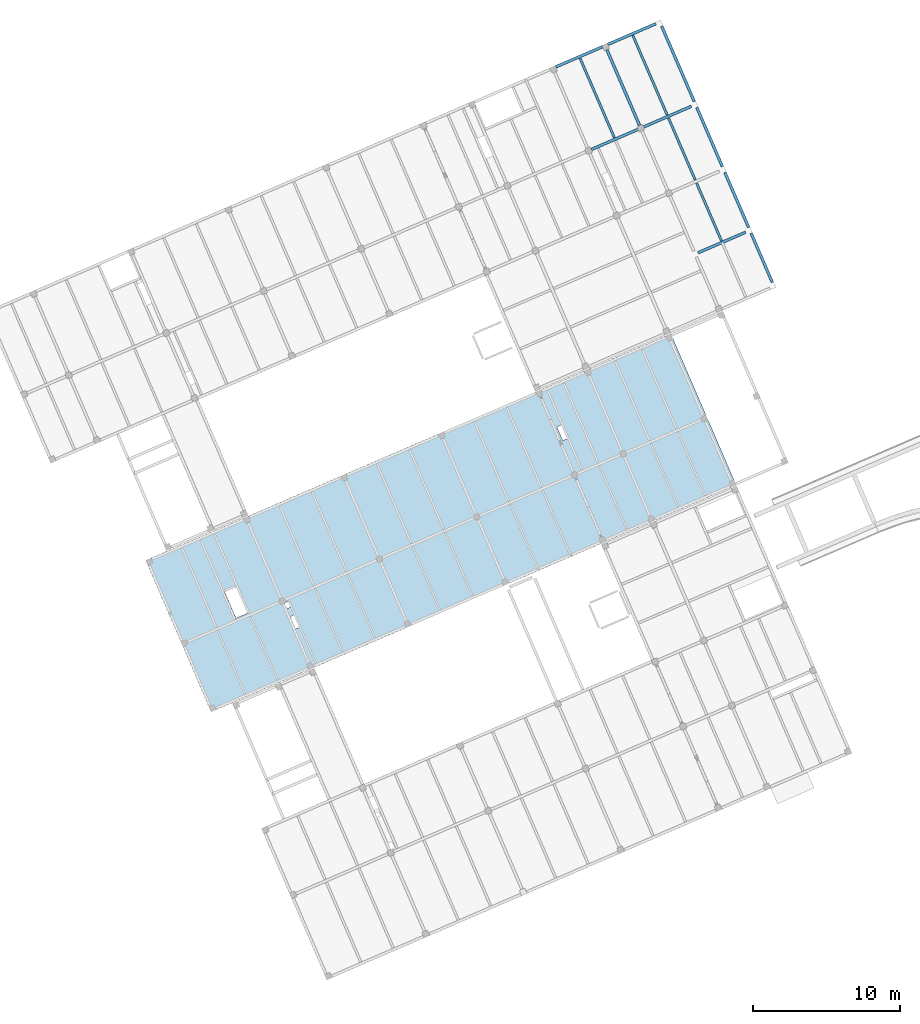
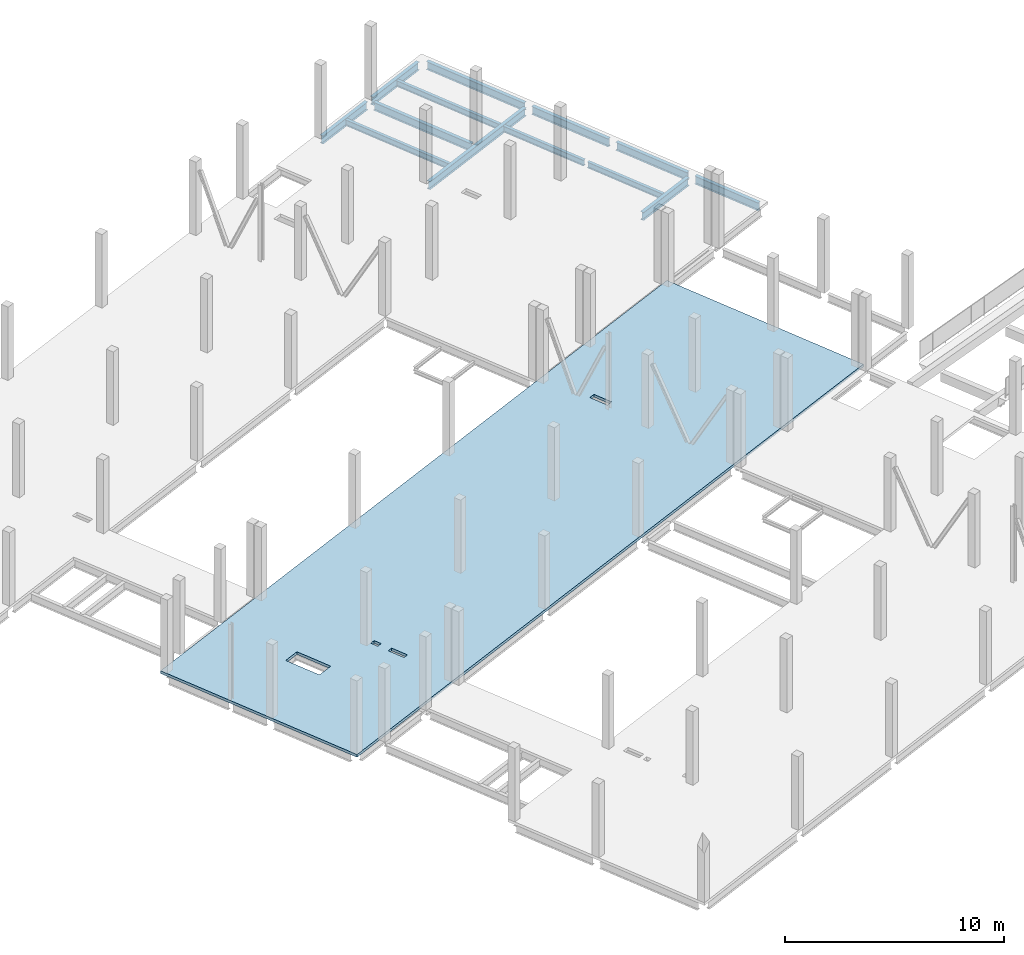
# One storey, part 21 of 24: 13 beams, 1 slab, 4 openings.
"""IFC4 building model written with IfcOpenShell, lengths in metres."""

from ifc_helpers import new_model, entity, si_unit, converted_unit, derived_unit, direction, frame, origin, place, context, subcontext, project, spatial, line, arc, indexed_curve, outline, extrude, source, transform, mapped, material, constituent, constituent_set, type_object, type_shapes, element, save


model = new_model("IFC4")

# Units and contexts
model_context = context("Model", 3, precision=1e-05, world=origin(), true_north=direction((6.12323399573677e-17, 1.0)))
body_context = subcontext(model_context, "Body", "Model", "MODEL_VIEW")
ifc_project = project(units=[si_unit("LENGTHUNIT", "METRE"), si_unit("AREAUNIT", "SQUARE_METRE"), si_unit("VOLUMEUNIT", "CUBIC_METRE"), converted_unit("PLANEANGLEUNIT", "DEGREE", entity("IfcPlaneAngleMeasure", 0.0174532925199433), si_unit("PLANEANGLEUNIT", "RADIAN"), dimensions=[0, 0, 0, 0, 0, 0, 0]), si_unit("MASSUNIT", "GRAM", prefix="KILO"), derived_unit("MOMENTOFINERTIAUNIT", [(si_unit("LENGTHUNIT", "METRE"), 4)]), derived_unit("LINEARFORCEUNIT", [(si_unit("MASSUNIT", "GRAM", prefix="KILO"), 1), (si_unit("TIMEUNIT", "SECOND"), -2)]), derived_unit("WARPINGCONSTANTUNIT", [(si_unit("LENGTHUNIT", "METRE"), 6)]), derived_unit("THERMALTRANSMITTANCEUNIT", [(si_unit("MASSUNIT", "GRAM", prefix="KILO"), 1), (si_unit("THERMODYNAMICTEMPERATUREUNIT", "KELVIN"), -1), (si_unit("TIMEUNIT", "SECOND"), -3)]), derived_unit("USERDEFINED", [(si_unit("MASSUNIT", "GRAM", prefix="KILO"), 1), (si_unit("TIMEUNIT", "SECOND"), -2), (si_unit("THERMODYNAMICTEMPERATUREUNIT", "KELVIN"), -1)]), derived_unit("THERMALRESISTANCEUNIT", [(si_unit("MASSUNIT", "GRAM", prefix="KILO"), -1), (si_unit("TIMEUNIT", "SECOND"), 3), (si_unit("THERMODYNAMICTEMPERATUREUNIT", "KELVIN"), 1)])], contexts=[model_context])

# Site, building, storey
site_placement = place(None, origin())
site = spatial("IfcSite", under=ifc_project, at=site_placement, Name="Default", CompositionType="ELEMENT")
building_placement = place(site_placement, frame((12.6613425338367, -82.5732315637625, 317.15), z_axis=(0.0, 0.0, 1.0), x_axis=(-0.396377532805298, 0.918087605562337, 0.0)))
building = spatial("IfcBuilding", under=site, at=building_placement, Name="CESFAM Coyhaique", CompositionType="ELEMENT")
storey_placement = place(building_placement, frame((0.0, 0.0, 4.20000000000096)))
storey = spatial("IfcBuildingStorey", under=building, at=storey_placement, Name="Nivel 2", CompositionType="ELEMENT", Elevation=4.20000000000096)

# Beams
ifc_material_1 = material(Name="Steel, 45-345", Category="Metal")
beam_type_1 = type_object("IfcBeamType", Name="M_W Shapes:W450X190mm", PredefinedType="BEAM", material=ifc_material_1)
shared_shape_1 = source(origin(), body_context, "Body", "SweptSolid", [
    extrude(outline(indexed_curve([(-0.225, -0.0950000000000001), (-0.215350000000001, -0.0950000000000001), (-0.21535, -0.0105700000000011), (-0.213109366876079, -0.00516063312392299), (-0.2077, -0.0029200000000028), (0.207699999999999, -0.0029200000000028), (0.213109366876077, -0.00516063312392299), (0.215349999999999, -0.0105700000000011), (0.215349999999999, -0.0950000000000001), (0.225, -0.0950000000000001), (0.225, 0.0950000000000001), (0.215349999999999, 0.0950000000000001), (0.215349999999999, 0.0105699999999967), (0.213109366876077, 0.00516063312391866), (0.207699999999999, 0.00291999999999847), (-0.2077, 0.00291999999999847), (-0.213109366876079, 0.00516063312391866), (-0.215350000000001, 0.0105700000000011), (-0.215350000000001, 0.0950000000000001), (-0.225, 0.0950000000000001)], segments=[line(1, 2, 3), arc(3, 4, 5), line(5, 6), arc(6, 7, 8), line(8, 9, 10, 11, 12, 13), arc(13, 14, 15), line(15, 16), arc(16, 17, 18), line(18, 19, 20, 1)], self_intersect=False)), frame((35.4315534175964, -29.097149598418, 3.82500000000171), z_axis=(1.0, 0.0, 0.0), x_axis=(0.0, 0.0, -1.0)), (0.0, 0.0, 1.0), 3.6246),
])
type_shapes(beam_type_1, [shared_shape_1])
beam_1_placement = place(storey_placement, frame((0.0, 0.0, -4.20000000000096)))
element("IfcBeam", 1, at=beam_1_placement, inside=storey, type_object=beam_type_1, Name="M_W Shapes:W450X190mm", ObjectType="M_W Shapes:W450X190mm", PredefinedType="BEAM", context=body_context, shape_type="MappedRepresentation", body=[
    mapped(shared_shape_1, transform((0.0, 0.0, 0.0), scale=1.0)),
])
beam_type_2 = type_object("IfcBeamType", Name="M_W Shapes:W450X190mm", PredefinedType="BEAM", material=ifc_material_1)
shared_shape_2 = source(origin(), body_context, "Body", "SweptSolid", [
    extrude(outline(indexed_curve([(-0.0949999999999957, -0.225000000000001), (0.0950000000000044, -0.225000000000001), (0.0950000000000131, -0.21535), (0.0105700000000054, -0.21535), (0.00516063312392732, -0.213109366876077), (0.00292000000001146, -0.2077), (0.0029200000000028, 0.207699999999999), (0.00516063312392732, 0.213109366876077), (0.0105700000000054, 0.21535), (0.0950000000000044, 0.21535), (0.0950000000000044, 0.224999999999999), (-0.0949999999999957, 0.224999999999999), (-0.0949999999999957, 0.21535), (-0.0105699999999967, 0.215349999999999), (-0.00516063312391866, 0.213109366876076), (-0.00291999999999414, 0.207699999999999), (-0.00291999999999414, -0.2077), (-0.00516063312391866, -0.213109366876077), (-0.0105699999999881, -0.21535), (-0.0949999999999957, -0.21535)], segments=[line(1, 2, 3, 4), arc(4, 5, 6), line(6, 7), arc(7, 8, 9), line(9, 10, 11, 12, 13, 14), arc(14, 15, 16), line(16, 17), arc(17, 18, 19), line(19, 20, 1)], self_intersect=False)), frame((48.5688534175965, -28.7844495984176, 3.82500000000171), z_axis=(0.0, 1.0, 0.0), x_axis=(-1.0, 0.0, 0.0)), (0.0, 0.0, 1.0), 7.3746),
])
type_shapes(beam_type_2, [shared_shape_2])
beam_2_placement = place(storey_placement, frame((0.0, 0.0, -4.20000000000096)))
element("IfcBeam", 2, at=beam_2_placement, inside=storey, type_object=beam_type_2, Name="M_W Shapes:W450X190mm", ObjectType="M_W Shapes:W450X190mm", PredefinedType="BEAM", context=body_context, shape_type="MappedRepresentation", body=[
    mapped(shared_shape_2, transform((0.0, 0.0, 0.0), scale=1.0)),
])
beam_type_3 = type_object("IfcBeamType", Name="M_W Shapes:W450X190mm", PredefinedType="BEAM", material=ifc_material_1)
shared_shape_3 = source(origin(), body_context, "Body", "SweptSolid", [
    extrude(outline(indexed_curve([(-0.0950000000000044, -0.225000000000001), (0.0949999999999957, -0.225000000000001), (0.0949999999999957, -0.21535), (0.0105699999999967, -0.21535), (0.00516063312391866, -0.213109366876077), (0.0029200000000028, -0.2077), (0.00291999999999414, 0.207699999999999), (0.00516063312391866, 0.213109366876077), (0.0105699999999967, 0.21535), (0.0949999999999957, 0.21535), (0.0949999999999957, 0.224999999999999), (-0.0950000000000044, 0.224999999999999), (-0.0950000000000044, 0.21535), (-0.0105700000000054, 0.215349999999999), (-0.00516063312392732, 0.213109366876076), (-0.0029200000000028, 0.207699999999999), (-0.0029200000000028, -0.2077), (-0.00516063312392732, -0.213109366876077), (-0.0105700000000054, -0.21535), (-0.0950000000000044, -0.21535)], segments=[line(1, 2, 3, 4), arc(4, 5, 6), line(6, 7), arc(7, 8, 9), line(9, 10, 11, 12, 13, 14), arc(14, 15, 16), line(16, 17), arc(17, 18, 19), line(19, 20, 1)], self_intersect=False)), frame((54.6688534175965, -24.8471495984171, 3.82500000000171), z_axis=(0.0, 1.0, 0.0), x_axis=(-1.0, 0.0, 0.0)), (0.0, 0.0, 1.0), 3.4373),
])
type_shapes(beam_type_3, [shared_shape_3])
beam_3_placement = place(storey_placement, frame((0.0, 0.0, -4.20000000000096)))
element("IfcBeam", 3, at=beam_3_placement, inside=storey, type_object=beam_type_3, Name="M_W Shapes:W450X190mm", ObjectType="M_W Shapes:W450X190mm", PredefinedType="BEAM", context=body_context, shape_type="MappedRepresentation", body=[
    mapped(shared_shape_3, transform((0.0, 0.0, 0.0), scale=1.0)),
])
beam_type_4 = type_object("IfcBeamType", Name="M_W Shapes:W450X190mm", PredefinedType="BEAM", material=ifc_material_1)
shared_shape_4 = source(origin(), body_context, "Body", "SweptSolid", [
    extrude(outline(indexed_curve([(-0.225, -0.0949999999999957), (-0.215350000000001, -0.0949999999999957), (-0.21535, -0.0105699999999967), (-0.213109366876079, -0.00516063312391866), (-0.2077, -0.00291999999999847), (0.207699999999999, -0.00291999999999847), (0.213109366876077, -0.00516063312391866), (0.215349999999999, -0.0105699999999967), (0.215349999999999, -0.0949999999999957), (0.225, -0.0949999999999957), (0.225, 0.0950000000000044), (0.215349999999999, 0.0950000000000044), (0.215349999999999, 0.0105700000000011), (0.213109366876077, 0.00516063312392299), (0.207699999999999, 0.0029200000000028), (-0.2077, 0.0029200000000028), (-0.213109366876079, 0.00516063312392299), (-0.215350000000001, 0.0105700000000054), (-0.215350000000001, 0.0950000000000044), (-0.225, 0.0950000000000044)], segments=[line(1, 2, 3), arc(3, 4, 5), line(5, 6), arc(6, 7, 8), line(8, 9, 10, 11, 12, 13), arc(13, 14, 15), line(15, 16), arc(16, 17, 18), line(18, 19, 20, 1)], self_intersect=False)), frame((43.9815534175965, -29.097149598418, 3.82500000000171), z_axis=(1.0, 0.0, 0.0), x_axis=(0.0, 0.0, -1.0)), (0.0, 0.0, 1.0), 4.3746),
])
type_shapes(beam_type_4, [shared_shape_4])
beam_4_placement = place(storey_placement, frame((0.0, 0.0, -4.20000000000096)))
element("IfcBeam", 4, at=beam_4_placement, inside=storey, type_object=beam_type_4, Name="M_W Shapes:W450X190mm", ObjectType="M_W Shapes:W450X190mm", PredefinedType="BEAM", context=body_context, shape_type="MappedRepresentation", body=[
    mapped(shared_shape_4, transform((0.0, 0.0, 0.0), scale=1.0)),
])
beam_type_5 = type_object("IfcBeamType", Name="M_W Shapes:W450X190mm", PredefinedType="BEAM", material=ifc_material_1)
shared_shape_5 = source(origin(), body_context, "Body", "SweptSolid", [
    extrude(outline(indexed_curve([(-0.225, -0.0950000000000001), (-0.215350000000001, -0.0950000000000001), (-0.21535, -0.0105700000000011), (-0.213109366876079, -0.00516063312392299), (-0.2077, -0.0029200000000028), (0.207699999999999, -0.0029200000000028), (0.213109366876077, -0.00516063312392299), (0.215349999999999, -0.0105700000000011), (0.215349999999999, -0.0950000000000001), (0.225, -0.0950000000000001), (0.225, 0.0950000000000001), (0.215349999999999, 0.0950000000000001), (0.215349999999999, 0.0105699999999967), (0.213109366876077, 0.00516063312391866), (0.207699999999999, 0.00291999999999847), (-0.2077, 0.00291999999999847), (-0.213109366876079, 0.00516063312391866), (-0.215350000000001, 0.0105699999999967), (-0.215350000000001, 0.0950000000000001), (-0.225, 0.0950000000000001)], segments=[line(1, 2, 3), arc(3, 4, 5), line(5, 6), arc(6, 7, 8), line(8, 9, 10, 11, 12, 13), arc(13, 14, 15), line(15, 16), arc(16, 17, 18), line(18, 19, 20, 1)], self_intersect=False)), frame((48.7815534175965, -29.0971495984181, 3.82500000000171), z_axis=(1.0, 0.0, 0.0), x_axis=(0.0, 0.0, -1.0)), (0.0, 0.0, 1.0), 5.5746),
])
type_shapes(beam_type_5, [shared_shape_5])
beam_5_placement = place(storey_placement, frame((0.0, 0.0, -4.20000000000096)))
element("IfcBeam", 5, at=beam_5_placement, inside=storey, type_object=beam_type_5, Name="M_W Shapes:W450X190mm", ObjectType="M_W Shapes:W450X190mm", PredefinedType="BEAM", context=body_context, shape_type="MappedRepresentation", body=[
    mapped(shared_shape_5, transform((0.0, 0.0, 0.0), scale=1.0)),
])
beam_type_6 = type_object("IfcBeamType", Name="M_W Shapes:W450X190mm", PredefinedType="BEAM", material=ifc_material_1)
shared_shape_6 = source(origin(), body_context, "Body", "SweptSolid", [
    extrude(outline(indexed_curve([(-0.225, -0.0950000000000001), (-0.215350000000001, -0.0950000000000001), (-0.21535, -0.0105700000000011), (-0.213109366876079, -0.00516063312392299), (-0.2077, -0.0029200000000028), (0.207699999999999, -0.0029200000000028), (0.213109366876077, -0.00516063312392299), (0.215349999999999, -0.0105700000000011), (0.215349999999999, -0.0950000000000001), (0.225, -0.0950000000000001), (0.225, 0.0950000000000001), (0.215349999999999, 0.0950000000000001), (0.215349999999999, 0.0105699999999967), (0.213109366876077, 0.00516063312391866), (0.207699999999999, 0.00291999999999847), (-0.2077, 0.00291999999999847), (-0.213109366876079, 0.00516063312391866), (-0.215350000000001, 0.0105699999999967), (-0.215350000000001, 0.0950000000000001), (-0.225, 0.0950000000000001)], segments=[line(1, 2, 3), arc(3, 4, 5), line(5, 6), arc(6, 7, 8), line(8, 9, 10, 11, 12, 13), arc(13, 14, 15), line(15, 16), arc(16, 17, 18), line(18, 19, 20, 1)], self_intersect=False)), frame((48.7815534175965, -25.0471495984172, 3.82500000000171), z_axis=(1.0, 0.0, 0.0), x_axis=(0.0, 0.0, -1.0)), (0.0, 0.0, 1.0), 5.5746),
])
type_shapes(beam_type_6, [shared_shape_6])
beam_6_placement = place(storey_placement, frame((0.0, 0.0, -4.20000000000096)))
element("IfcBeam", 6, at=beam_6_placement, inside=storey, type_object=beam_type_6, Name="M_W Shapes:W450X190mm", ObjectType="M_W Shapes:W450X190mm", PredefinedType="BEAM", context=body_context, shape_type="MappedRepresentation", body=[
    mapped(shared_shape_6, transform((0.0, 0.0, 0.0), scale=1.0)),
])
beam_type_7 = type_object("IfcBeamType", Name="M_W Shapes:W450X190mm", PredefinedType="BEAM", material=ifc_material_1)
shared_shape_7 = source(origin(), body_context, "Body", "SweptSolid", [
    extrude(outline(indexed_curve([(-0.0950000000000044, -0.225000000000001), (0.0949999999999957, -0.225000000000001), (0.0949999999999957, -0.21535), (0.0105699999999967, -0.21535), (0.00516063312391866, -0.213109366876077), (0.0029200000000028, -0.2077), (0.00291999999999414, 0.207699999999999), (0.00516063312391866, 0.213109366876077), (0.0105699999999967, 0.21535), (0.0949999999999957, 0.21535), (0.0949999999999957, 0.224999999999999), (-0.0950000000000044, 0.224999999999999), (-0.0950000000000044, 0.21535), (-0.0105700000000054, 0.215349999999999), (-0.00516063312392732, 0.213109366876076), (-0.0029200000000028, 0.207699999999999), (-0.0029200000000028, -0.2077), (-0.00516063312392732, -0.213109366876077), (-0.0105700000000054, -0.21535), (-0.0950000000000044, -0.21535)], segments=[line(1, 2, 3, 4), arc(4, 5, 6), line(6, 7), arc(7, 8, 9), line(9, 10, 11, 12, 13, 14), arc(14, 15, 16), line(16, 17), arc(17, 18, 19), line(19, 20, 1)], self_intersect=False)), frame((54.6688534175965, -28.7970645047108, 3.82500000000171), z_axis=(0.0, 1.0, 0.0), x_axis=(-1.0, 0.0, 0.0)), (0.0, 0.0, 1.0), 3.5372),
])
type_shapes(beam_type_7, [shared_shape_7])
beam_7_placement = place(storey_placement, frame((0.0, 0.0, -4.20000000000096)))
element("IfcBeam", 7, at=beam_7_placement, inside=storey, type_object=beam_type_7, Name="M_W Shapes:W450X190mm", ObjectType="M_W Shapes:W450X190mm", PredefinedType="BEAM", context=body_context, shape_type="MappedRepresentation", body=[
    mapped(shared_shape_7, transform((0.0, 0.0, 0.0), scale=1.0)),
])
beam_type_8 = type_object("IfcBeamType", Name="M_W Shapes:W450X190mm", PredefinedType="BEAM", material=ifc_material_1)
shared_shape_8 = source(origin(), body_context, "Body", "SweptSolid", [
    extrude(outline(indexed_curve([(-0.225, -0.0950000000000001), (-0.215350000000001, -0.0950000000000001), (-0.21535, -0.0105700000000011), (-0.213109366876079, -0.00516063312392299), (-0.2077, -0.0029200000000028), (0.207699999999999, -0.0029200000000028), (0.213109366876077, -0.00516063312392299), (0.215349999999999, -0.0105700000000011), (0.215349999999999, -0.0950000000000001), (0.225, -0.0950000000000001), (0.225, 0.0950000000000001), (0.215349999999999, 0.0950000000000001), (0.215349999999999, 0.0105699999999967), (0.213109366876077, 0.00516063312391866), (0.207699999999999, 0.00291999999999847), (-0.2077, 0.00291999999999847), (-0.213109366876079, 0.00516063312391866), (-0.215350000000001, 0.0105699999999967), (-0.215350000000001, 0.0950000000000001), (-0.225, 0.0950000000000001)], segments=[line(1, 2, 3), arc(3, 4, 5), line(5, 6), arc(6, 7, 8), line(8, 9, 10, 11, 12, 13), arc(13, 14, 15), line(15, 16), arc(16, 17, 18), line(18, 19, 20, 1)], self_intersect=False)), frame((39.4815534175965, -29.097149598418, 3.82500000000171), z_axis=(1.0, 0.0, 0.0), x_axis=(0.0, 0.0, -1.0)), (0.0, 0.0, 1.0), 4.0746),
])
type_shapes(beam_type_8, [shared_shape_8])
beam_8_placement = place(storey_placement, frame((0.0, 0.0, -4.20000000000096)))
element("IfcBeam", 8, at=beam_8_placement, inside=storey, type_object=beam_type_8, Name="M_W Shapes:W450X190mm", ObjectType="M_W Shapes:W450X190mm", PredefinedType="BEAM", context=body_context, shape_type="MappedRepresentation", body=[
    mapped(shared_shape_8, transform((0.0, 0.0, 0.0), scale=1.0)),
])
beam_type_9 = type_object("IfcBeamType", Name="M_W Shapes:W450X190mm", PredefinedType="BEAM", material=ifc_material_1)
shared_shape_9 = source(origin(), body_context, "Body", "SweptSolid", [
    extrude(outline(indexed_curve([(-0.0950000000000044, -0.225000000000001), (0.0949999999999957, -0.225000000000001), (0.0949999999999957, -0.21535), (0.0105699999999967, -0.21535), (0.00516063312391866, -0.213109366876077), (0.0029200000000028, -0.2077), (0.00291999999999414, 0.207699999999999), (0.00516063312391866, 0.213109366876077), (0.0105699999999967, 0.21535), (0.0949999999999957, 0.21535), (0.0949999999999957, 0.224999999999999), (-0.0950000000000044, 0.224999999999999), (-0.0950000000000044, 0.21535), (-0.0105700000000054, 0.215349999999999), (-0.00516063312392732, 0.213109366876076), (-0.0029200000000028, 0.207699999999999), (-0.0029200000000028, -0.2077), (-0.00516063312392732, -0.213109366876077), (-0.0105700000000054, -0.21535), (-0.0950000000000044, -0.21535)], segments=[line(1, 2, 3, 4), arc(4, 5, 6), line(6, 7), arc(7, 8, 9), line(9, 10, 11, 12, 13, 14), arc(14, 15, 16), line(16, 17), arc(17, 18, 19), line(19, 20, 1)], self_intersect=False)), frame((39.2688534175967, -28.7844495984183, 3.82500000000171), z_axis=(0.0, 1.0, 0.0), x_axis=(-1.0, 0.0, 0.0)), (0.0, 0.0, 1.0), 3.5246),
])
type_shapes(beam_type_9, [shared_shape_9])
beam_9_placement = place(storey_placement, frame((0.0, 0.0, -4.20000000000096)))
element("IfcBeam", 9, at=beam_9_placement, inside=storey, type_object=beam_type_9, Name="M_W Shapes:W450X190mm", ObjectType="M_W Shapes:W450X190mm", PredefinedType="BEAM", context=body_context, shape_type="MappedRepresentation", body=[
    mapped(shared_shape_9, transform((0.0, 0.0, 0.0), scale=1.0)),
])
beam_type_10 = type_object("IfcBeamType", Name="M_W Shapes:W330X160mm", PredefinedType="BEAM", material=ifc_material_1)
shared_shape_10 = source(origin(), body_context, "Body", "SweptSolid", [
    extrude(outline(indexed_curve([(-0.164999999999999, -0.0799999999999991), (-0.15535, -0.0799999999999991), (-0.155349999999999, -0.0105699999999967), (-0.153109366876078, -0.00516063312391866), (-0.1477, -0.00291999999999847), (0.1477, -0.00291999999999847), (0.153109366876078, -0.00516063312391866), (0.15535, -0.0105699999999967), (0.15535, -0.0799999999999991), (0.165, -0.0799999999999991), (0.165, 0.0800000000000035), (0.15535, 0.0800000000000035), (0.155349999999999, 0.0105700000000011), (0.153109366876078, 0.00516063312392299), (0.1477, 0.0029200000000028), (-0.1477, 0.0029200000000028), (-0.153109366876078, 0.00516063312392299), (-0.15535, 0.0105700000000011), (-0.15535, 0.0800000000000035), (-0.164999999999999, 0.0800000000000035)], segments=[line(1, 2, 3), arc(3, 4, 5), line(5, 6), arc(6, 7, 8), line(8, 9, 10, 11, 12, 13), arc(13, 14, 15), line(15, 16), arc(16, 17, 18), line(18, 19, 20, 1)], self_intersect=False)), frame((39.2816534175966, -27.0471495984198, 3.88500000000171), z_axis=(1.0, 0.0, 0.0), x_axis=(0.0, 0.0, -1.0)), (0.0, 0.0, 1.0), 4.3795),
])
type_shapes(beam_type_10, [shared_shape_10])
beam_10_placement = place(storey_placement, frame((0.0, 0.0, -4.20000000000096)))
element("IfcBeam", 10, at=beam_10_placement, inside=storey, type_object=beam_type_10, Name="M_W Shapes:W330X160mm", ObjectType="M_W Shapes:W330X160mm", PredefinedType="BEAM", context=body_context, shape_type="MappedRepresentation", body=[
    mapped(shared_shape_10, transform((0.0, 0.0, 0.0), scale=1.0)),
])
beam_type_11 = type_object("IfcBeamType", Name="M_W Shapes:W330X160mm", PredefinedType="BEAM", material=ifc_material_1)
shared_shape_11 = source(origin(), body_context, "Body", "SweptSolid", [
    extrude(outline(indexed_curve([(-0.164999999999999, -0.0799999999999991), (-0.15535, -0.0799999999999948), (-0.15535, -0.0105699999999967), (-0.153109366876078, -0.00516063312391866), (-0.1477, -0.00291999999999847), (0.1477, -0.00291999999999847), (0.153109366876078, -0.00516063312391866), (0.15535, -0.0105700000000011), (0.155349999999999, -0.0799999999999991), (0.165, -0.0799999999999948), (0.165000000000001, 0.0800000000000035), (0.15535, 0.0799999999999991), (0.155349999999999, 0.0105700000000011), (0.153109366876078, 0.00516063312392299), (0.1477, 0.0029200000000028), (-0.1477, 0.0029200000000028), (-0.153109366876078, 0.00516063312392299), (-0.15535, 0.0105700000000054), (-0.15535, 0.0800000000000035), (-0.164999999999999, 0.0799999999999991)], segments=[line(1, 2, 3), arc(3, 4, 5), line(5, 6), arc(6, 7, 8), line(8, 9, 10, 11, 12, 13), arc(13, 14, 15), line(15, 16), arc(16, 17, 18), line(18, 19, 20, 1)], self_intersect=False)), frame((48.4611534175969, -27.0471495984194, 3.88500000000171), z_axis=(-1.0, 0.0, 0.0), x_axis=(0.0, 0.0, -1.0)), (0.0, 0.0, 1.0), 4.5846),
])
type_shapes(beam_type_11, [shared_shape_11])
beam_11_placement = place(storey_placement, frame((0.0, 0.0, -4.20000000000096)))
element("IfcBeam", 11, at=beam_11_placement, inside=storey, type_object=beam_type_11, Name="M_W Shapes:W330X160mm", ObjectType="M_W Shapes:W330X160mm", PredefinedType="BEAM", context=body_context, shape_type="MappedRepresentation", body=[
    mapped(shared_shape_11, transform((0.0, 0.0, 0.0), scale=1.0)),
])
beam_type_12 = type_object("IfcBeamType", Name="M_W Shapes:W330X160mm", PredefinedType="BEAM", material=ifc_material_1)
shared_shape_12 = source(origin(), body_context, "Body", "SweptSolid", [
    extrude(outline(indexed_curve([(-0.164999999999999, -0.0799999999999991), (-0.15535, -0.0799999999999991), (-0.155349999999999, -0.0105699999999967), (-0.153109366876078, -0.00516063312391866), (-0.1477, -0.00291999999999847), (0.1477, -0.00291999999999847), (0.153109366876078, -0.00516063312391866), (0.15535, -0.0105699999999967), (0.15535, -0.0799999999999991), (0.165, -0.0799999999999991), (0.165, 0.0800000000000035), (0.15535, 0.0800000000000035), (0.155349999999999, 0.0105700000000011), (0.153109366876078, 0.00516063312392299), (0.1477, 0.0029200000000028), (-0.1477, 0.0029200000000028), (-0.153109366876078, 0.00516063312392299), (-0.15535, 0.0105700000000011), (-0.15535, 0.0800000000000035), (-0.164999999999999, 0.0800000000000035)], segments=[line(1, 2, 3), arc(3, 4, 5), line(5, 6), arc(6, 7, 8), line(8, 9, 10, 11, 12, 13), arc(13, 14, 15), line(15, 16), arc(16, 17, 18), line(18, 19, 20, 1)], self_intersect=False)), frame((48.6765534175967, -27.0471495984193, 3.88500000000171), z_axis=(1.0, 0.0, 0.0), x_axis=(0.0, 0.0, -1.0)), (0.0, 0.0, 1.0), 5.88460000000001),
])
type_shapes(beam_type_12, [shared_shape_12])
beam_12_placement = place(storey_placement, frame((0.0, 0.0, -4.20000000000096)))
element("IfcBeam", 12, at=beam_12_placement, inside=storey, type_object=beam_type_12, Name="M_W Shapes:W330X160mm", ObjectType="M_W Shapes:W330X160mm", PredefinedType="BEAM", context=body_context, shape_type="MappedRepresentation", body=[
    mapped(shared_shape_12, transform((0.0, 0.0, 0.0), scale=1.0)),
])
beam_type_13 = type_object("IfcBeamType", Name="M_W Shapes:W330X160mm", PredefinedType="BEAM", material=ifc_material_1)
shared_shape_13 = source(origin(), body_context, "Body", "SweptSolid", [
    extrude(outline(indexed_curve([(-0.164999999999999, -0.0799999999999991), (-0.15535, -0.0799999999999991), (-0.155349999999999, -0.0105699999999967), (-0.153109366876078, -0.00516063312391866), (-0.1477, -0.00291999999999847), (0.1477, -0.00291999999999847), (0.153109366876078, -0.00516063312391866), (0.15535, -0.0105699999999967), (0.15535, -0.0799999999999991), (0.165, -0.0799999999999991), (0.165, 0.0800000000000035), (0.15535, 0.0800000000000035), (0.155349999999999, 0.0105700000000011), (0.153109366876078, 0.00516063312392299), (0.1477, 0.0029200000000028), (-0.1477, 0.0029200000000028), (-0.153109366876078, 0.00516063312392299), (-0.15535, 0.0105700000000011), (-0.15535, 0.0800000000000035), (-0.164999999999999, 0.0800000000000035)], segments=[line(1, 2, 3), arc(3, 4, 5), line(5, 6), arc(6, 7, 8), line(8, 9, 10, 11, 12, 13), arc(13, 14, 15), line(15, 16), arc(16, 17, 18), line(18, 19, 20, 1)], self_intersect=False)), frame((48.6765534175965, -23.1471495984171, 3.88500000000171), z_axis=(1.0, 0.0, 0.0), x_axis=(0.0, 0.0, -1.0)), (0.0, 0.0, 1.0), 5.88460000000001),
])
type_shapes(beam_type_13, [shared_shape_13])
beam_13_placement = place(storey_placement, frame((0.0, 0.0, -4.20000000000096)))
element("IfcBeam", 13, at=beam_13_placement, inside=storey, type_object=beam_type_13, Name="M_W Shapes:W330X160mm", ObjectType="M_W Shapes:W330X160mm", PredefinedType="BEAM", context=body_context, shape_type="MappedRepresentation", body=[
    mapped(shared_shape_13, transform((0.0, 0.0, 0.0), scale=1.0)),
])

# Slab, openings
ifc_material_2 = material(Name="HA")
ifc_constituent = constituent(ifc_material_2, Name="HA", fraction=1.0)
ifc_constituent_set = constituent_set(constituents=[ifc_constituent], Name="Floor:Losa colaborante 150mm")
slab_type = type_object("IfcSlabType", Name="Floor:Losa colaborante 150mm", PredefinedType="FLOOR", material=ifc_constituent_set)
slab_placement = place(storey_placement, origin())
slab = element("IfcSlab", 14, at=slab_placement, inside=storey, type_object=slab_type, material=ifc_constituent_set, Name="Floor:Losa colaborante 150mm", ObjectType="Floor:Losa colaborante 150mm", PredefinedType="FLOOR", context=body_context, shape_type="SweptSolid", body=[
    extrude(outline(indexed_curve([(-5.66666666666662, -20.3333333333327), (5.53333333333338, -20.3333333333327), (5.53333333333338, 18.4666666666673), (-5.66666666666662, 18.4666666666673), (-5.66666666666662, -20.3333333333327)], self_intersect=False), holes=[indexed_curve([(2.6333333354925, -12.8333333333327), (1.7333333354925, -12.8333333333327), (1.7333333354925, -12.5733333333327), (2.6333333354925, -12.5733333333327), (2.6333333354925, -12.8333333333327)], self_intersect=False), indexed_curve([(-2.9200450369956, 9.18218270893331), (-1.91666666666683, 9.18218270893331), (-1.91666666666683, 8.86666666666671), (-2.9200450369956, 8.86666666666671), (-2.9200450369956, 9.18218270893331)], self_intersect=False), indexed_curve([(0.733333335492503, -12.5733333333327), (1.1333333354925, -12.5733333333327), (1.1333333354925, -12.8333333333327), (0.733333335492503, -12.8333333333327), (0.733333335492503, -12.5733333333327)], self_intersect=False), indexed_curve([(-1.56655600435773, -15.3935339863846), (0.358952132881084, -15.3935339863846), (0.358952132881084, -16.2533926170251), (-1.56655600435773, -16.2533926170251), (-1.56655600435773, -15.3935339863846)], self_intersect=False)]), frame((29.3021867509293, -2.93048293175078, -0.149999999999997), z_axis=(0.0, 0.0, 1.0), x_axis=(-1.0, 0.0, 0.0)), (0.0, 0.0, 1.0), 0.15),
])
opening_1_placement = place(slab_placement, origin())
element("IfcOpeningElement", 15, at=opening_1_placement, cuts=slab, Name="Floor:Losa colaborante 150mm", PredefinedType="OPENING", context=body_context, shape_type="SweptSolid", body=[
    extrude(outline(indexed_curve([(26.6688534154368, 9.9028504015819), (26.6688534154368, 9.64285040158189), (27.5688534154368, 9.64285040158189), (27.5688534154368, 9.9028504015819), (26.6688534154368, 9.9028504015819)], self_intersect=False)), frame((0.0, 0.0, -4.20000000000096)), (0.0, 0.0, 1.0), 38.8),
])
opening_2_placement = place(slab_placement, origin())
element("IfcOpeningElement", 16, at=opening_2_placement, cuts=slab, Name="Floor:Losa colaborante 150mm", PredefinedType="OPENING", context=body_context, shape_type="SweptSolid", body=[
    extrude(outline(indexed_curve([(32.2222317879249, -12.1126656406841), (32.2222317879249, -11.7971495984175), (31.2188534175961, -11.7971495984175), (31.2188534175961, -12.1126656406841), (32.2222317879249, -12.1126656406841)], self_intersect=False)), frame((0.0, 0.0, -4.20000000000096)), (0.0, 0.0, 1.0), 38.8),
])
opening_3_placement = place(slab_placement, origin())
element("IfcOpeningElement", 17, at=opening_3_placement, cuts=slab, Name="Floor:Losa colaborante 150mm", PredefinedType="OPENING", context=body_context, shape_type="SweptSolid", body=[
    extrude(outline(indexed_curve([(28.5688534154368, 9.64285040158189), (28.5688534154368, 9.90285040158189), (28.1688534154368, 9.9028504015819), (28.1688534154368, 9.64285040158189), (28.5688534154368, 9.64285040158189)], self_intersect=False)), frame((0.0, 0.0, -4.20000000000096)), (0.0, 0.0, 1.0), 38.8),
])
opening_4_placement = place(slab_placement, origin())
element("IfcOpeningElement", 18, at=opening_4_placement, cuts=slab, Name="Floor:Losa colaborante 150mm", PredefinedType="OPENING", context=body_context, shape_type="SweptSolid", body=[
    extrude(outline(indexed_curve([(30.868742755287, 12.4630510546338), (30.868742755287, 13.3229096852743), (28.9432346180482, 13.3229096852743), (28.9432346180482, 12.4630510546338), (30.868742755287, 12.4630510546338)], self_intersect=False)), frame((0.0, 0.0, -4.20000000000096)), (0.0, 0.0, 1.0), 38.8),
])

save(model, "model.ifc")
